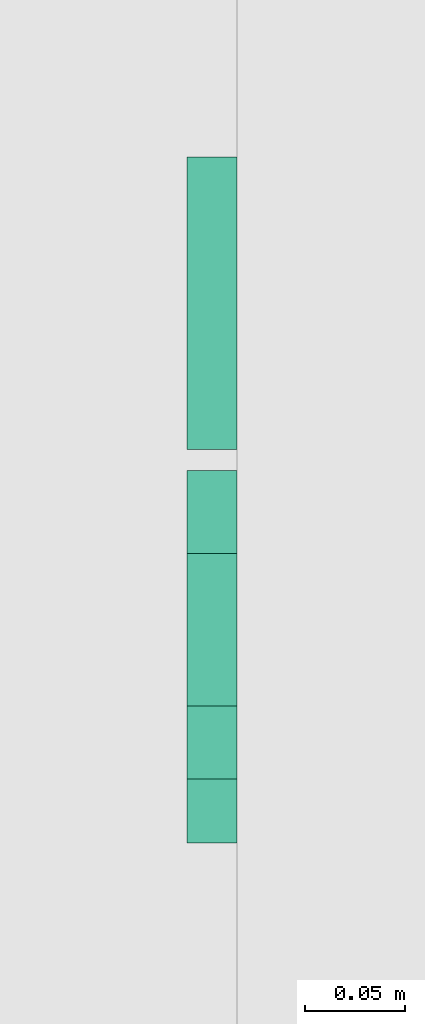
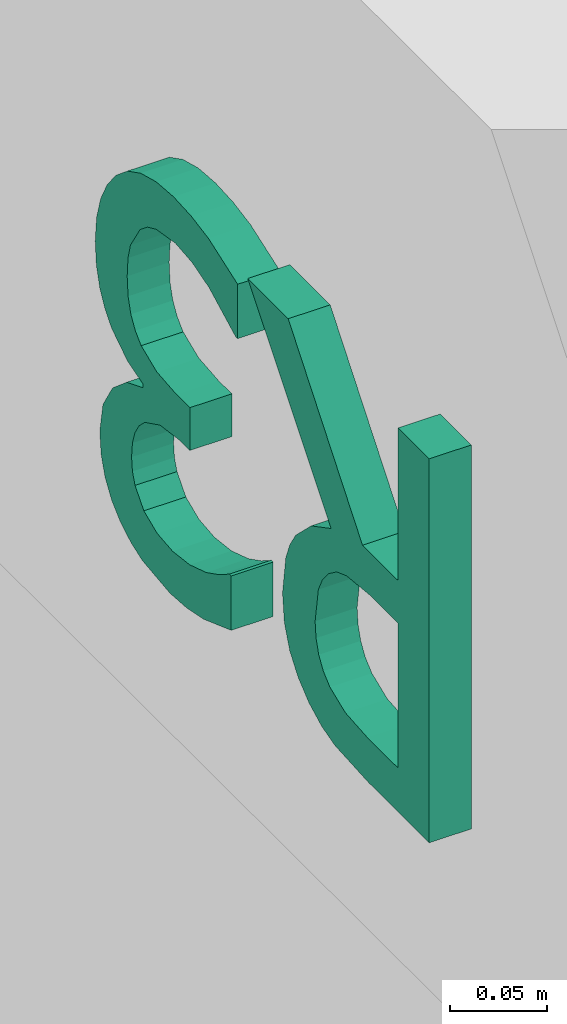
# Not in any storey, part 6 of 22: 1 distribution flow element.
"""IFC4 model written with IfcOpenShell, lengths in metres."""

from ifc_helpers import new_model, si_unit, direction, origin_with_axes, place, context, subcontext, project, faceted_brep, element, save


model = new_model("IFC4")

# Units and contexts
model_context = context("Model", 3, precision=1e-05, world=origin_with_axes(), true_north=direction((1.0, 0.0)))
body_context = subcontext(model_context, "Body", "Model", "MODEL_VIEW")
ifc_project = project(units=[si_unit("LENGTHUNIT", "METRE"), si_unit("AREAUNIT", "SQUARE_METRE"), si_unit("VOLUMEUNIT", "CUBIC_METRE"), si_unit("MASSUNIT", "GRAM", prefix="KILO"), si_unit("TIMEUNIT", "SECOND"), si_unit("PLANEANGLEUNIT", "RADIAN"), si_unit("SOLIDANGLEUNIT", "STERADIAN")], contexts=[model_context])

# Distribution flow element
distribution_flow_element_placement = place(None, origin_with_axes())
element("IfcDistributionFlowElement", 1, at=distribution_flow_element_placement, Name="R3", context=body_context, shape_type="AdvancedBrep", body=[
    faceted_brep([(156.869465, 27.982351, 1.982204), (156.869465, 27.940666, 1.982204), (156.869465, 27.86411, 1.886183), (156.869465, 27.827453, 1.886183), (156.869465, 27.827453, 1.982204), (156.869465, 27.795338, 1.982204), (156.869465, 27.795338, 1.740693), (156.869465, 27.857622, 1.740693), (156.869465, 27.892413, 1.742964), (156.869465, 27.906098, 1.746735), (156.869465, 27.919094, 1.753507), (156.869465, 27.930428, 1.762792), (156.869465, 27.939126, 1.77443), (156.869465, 27.944661, 1.788784), (156.869465, 27.946506, 1.80622), (156.869465, 27.94314, 1.830631), (156.869465, 27.938933, 1.841194), (156.869465, 27.933043, 1.850662), (156.869465, 27.917148, 1.866193), (156.869465, 27.896387, 1.8771), (156.869465, 27.912931, 1.808653), (156.869465, 27.911998, 1.798699), (156.869465, 27.9092, 1.78992), (156.869465, 27.904456, 1.782479), (156.869465, 27.897684, 1.776538), (156.869465, 27.881789, 1.770132), (156.869465, 27.859244, 1.768266), (156.869465, 27.827453, 1.768266), (156.869465, 27.827453, 1.859421), (156.869465, 27.855675, 1.859421), (156.869465, 27.880491, 1.856988), (156.869465, 27.89071, 1.853257), (156.869465, 27.899306, 1.846932), (156.869465, 27.905368, 1.839471), (156.869465, 27.909606, 1.830712), (156.869465, 28.059881, 1.763725), (156.869465, 28.042364, 1.765833), (156.869465, 28.025171, 1.771348), (156.869465, 28.011627, 1.77816), (156.869465, 28.001328, 1.78481), (156.869465, 27.999382, 1.78481), (156.869465, 27.999382, 1.750587), (156.869465, 28.028009, 1.740287), (156.869465, 28.045669, 1.736821), (156.869465, 28.062476, 1.735665), (156.869465, 28.091104, 1.73899), (156.869465, 28.102762, 1.743227), (156.869465, 28.113244, 1.749289), (156.869465, 28.122631, 1.757886), (156.869465, 28.129382, 1.768104), (156.869465, 28.133457, 1.780066), (156.869465, 28.134816, 1.793893), (156.869465, 28.131531, 1.812627), (156.869465, 28.121678, 1.828928), (156.869465, 28.107242, 1.841255), (156.869465, 28.090212, 1.848067), (156.869465, 28.090212, 1.850338), (156.869465, 28.106513, 1.855366), (156.869465, 28.122651, 1.865909), (156.869465, 28.129423, 1.873877), (156.869465, 28.134816, 1.883832), (156.869465, 28.138344, 1.895976), (156.869465, 28.13952, 1.910513), (156.869465, 28.138121, 1.926226), (156.869465, 28.133924, 1.9406), (156.869465, 28.127172, 1.953515), (156.869465, 28.11811, 1.964849), (156.869465, 28.106472, 1.97454), (156.869465, 28.092645, 1.981555), (156.869465, 28.076709, 1.985813), (156.869465, 28.058746, 1.987232), (156.869465, 28.040661, 1.986137), (156.869465, 28.022738, 1.982853), (156.869465, 27.992732, 1.97231), (156.869465, 27.992732, 1.938086), (156.869465, 27.995002, 1.938086), (156.869465, 28.022414, 1.95236), (156.869465, 28.039606, 1.957469), (156.869465, 28.056799, 1.959172), (156.869465, 28.076668, 1.956009), (156.869465, 28.085812, 1.951853), (156.869465, 28.093294, 1.94571), (156.869465, 28.103188, 1.929976), (156.869465, 28.105742, 1.920245), (156.869465, 28.106594, 1.908242), (156.869465, 28.105641, 1.89628), (156.869465, 28.102782, 1.88667), (156.869465, 28.09822, 1.879128), (156.869465, 28.092158, 1.87337), (156.869465, 28.07602, 1.866639), (156.869465, 28.055826, 1.864773), (156.869465, 28.042039, 1.864773), (156.869465, 28.042039, 1.837849), (156.869465, 28.052744, 1.837849), (156.869465, 28.072593, 1.835254), (156.869465, 28.088347, 1.827468), (156.869465, 28.094343, 1.82169), (156.869465, 28.098626, 1.814736), (156.869465, 28.101196, 1.806606), (156.869465, 28.102052, 1.7973), (156.869465, 28.10116, 1.788845), (156.869465, 28.098484, 1.781648), (156.869465, 28.089401, 1.771186), (156.869465, 28.075776, 1.765347), (156.844465, 27.940666, 1.982204), (156.844465, 27.982351, 1.982204), (156.844465, 27.896387, 1.8771), (156.844465, 27.917148, 1.866193), (156.844465, 27.933043, 1.850662), (156.844465, 27.938933, 1.841194), (156.844465, 27.94314, 1.830631), (156.844465, 27.946506, 1.80622), (156.844465, 27.944661, 1.788784), (156.844465, 27.939126, 1.77443), (156.844465, 27.930428, 1.762792), (156.844465, 27.919094, 1.753507), (156.844465, 27.906098, 1.746735), (156.844465, 27.892413, 1.742964), (156.844465, 27.857622, 1.740693), (156.844465, 27.795338, 1.740693), (156.844465, 27.795338, 1.982204), (156.844465, 27.827453, 1.982204), (156.844465, 27.827453, 1.886183), (156.844465, 27.86411, 1.886183), (156.844465, 27.911998, 1.798699), (156.844465, 27.912931, 1.808653), (156.844465, 27.909606, 1.830712), (156.844465, 27.905368, 1.839471), (156.844465, 27.899306, 1.846932), (156.844465, 27.89071, 1.853257), (156.844465, 27.880491, 1.856988), (156.844465, 27.855675, 1.859421), (156.844465, 27.827453, 1.859421), (156.844465, 27.827453, 1.768266), (156.844465, 27.859244, 1.768266), (156.844465, 27.881789, 1.770132), (156.844465, 27.897684, 1.776538), (156.844465, 27.904456, 1.782479), (156.844465, 27.9092, 1.78992), (156.844465, 28.042364, 1.765833), (156.844465, 28.059881, 1.763725), (156.844465, 28.075776, 1.765347), (156.844465, 28.089401, 1.771186), (156.844465, 28.098484, 1.781648), (156.844465, 28.10116, 1.788845), (156.844465, 28.102052, 1.7973), (156.844465, 28.101196, 1.806606), (156.844465, 28.098626, 1.814736), (156.844465, 28.094343, 1.82169), (156.844465, 28.088347, 1.827468), (156.844465, 28.072593, 1.835254), (156.844465, 28.052744, 1.837849), (156.844465, 28.042039, 1.837849), (156.844465, 28.042039, 1.864773), (156.844465, 28.055826, 1.864773), (156.844465, 28.07602, 1.866639), (156.844465, 28.092158, 1.87337), (156.844465, 28.09822, 1.879128), (156.844465, 28.102782, 1.88667), (156.844465, 28.105641, 1.89628), (156.844465, 28.106594, 1.908242), (156.844465, 28.105742, 1.920245), (156.844465, 28.103188, 1.929976), (156.844465, 28.093294, 1.94571), (156.844465, 28.085812, 1.951853), (156.844465, 28.076668, 1.956009), (156.844465, 28.056799, 1.959172), (156.844465, 28.039606, 1.957469), (156.844465, 28.022414, 1.95236), (156.844465, 27.995002, 1.938086), (156.844465, 27.992732, 1.938086), (156.844465, 27.992732, 1.97231), (156.844465, 28.022738, 1.982853), (156.844465, 28.040661, 1.986137), (156.844465, 28.058746, 1.987232), (156.844465, 28.076709, 1.985813), (156.844465, 28.092645, 1.981555), (156.844465, 28.106472, 1.97454), (156.844465, 28.11811, 1.964849), (156.844465, 28.127172, 1.953515), (156.844465, 28.133924, 1.9406), (156.844465, 28.138121, 1.926226), (156.844465, 28.13952, 1.910513), (156.844465, 28.138344, 1.895976), (156.844465, 28.134816, 1.883832), (156.844465, 28.129423, 1.873877), (156.844465, 28.122651, 1.865909), (156.844465, 28.106513, 1.855366), (156.844465, 28.090212, 1.850338), (156.844465, 28.090212, 1.848067), (156.844465, 28.107242, 1.841255), (156.844465, 28.121678, 1.828928), (156.844465, 28.131531, 1.812627), (156.844465, 28.134816, 1.793893), (156.844465, 28.133457, 1.780066), (156.844465, 28.129382, 1.768104), (156.844465, 28.122631, 1.757886), (156.844465, 28.113244, 1.749289), (156.844465, 28.102762, 1.743227), (156.844465, 28.091104, 1.73899), (156.844465, 28.062476, 1.735665), (156.844465, 28.045669, 1.736821), (156.844465, 28.028009, 1.740287), (156.844465, 27.999382, 1.750587), (156.844465, 27.999382, 1.78481), (156.844465, 28.001328, 1.78481), (156.844465, 28.011627, 1.77816), (156.844465, 28.025171, 1.771348)], [[[0, 1, 2, 3, 4, 5, 6, 7, 8, 9, 10, 11, 12, 13, 14, 15, 16, 17, 18, 19], [20, 21, 22, 23, 24, 25, 26, 27, 28, 29, 30, 31, 32, 33, 34]], [[35, 36, 37, 38, 39, 40, 41, 42, 43, 44, 45, 46, 47, 48, 49, 50, 51, 52, 53, 54, 55, 56, 57, 58, 59, 60, 61, 62, 63, 64, 65, 66, 67, 68, 69, 70, 71, 72, 73, 74, 75, 76, 77, 78, 79, 80, 81, 82, 83, 84, 85, 86, 87, 88, 89, 90, 91, 92, 93, 94, 95, 96, 97, 98, 99, 100, 101, 102, 103]], [[104, 105, 106, 107, 108, 109, 110, 111, 112, 113, 114, 115, 116, 117, 118, 119, 120, 121, 122, 123], [124, 125, 126, 127, 128, 129, 130, 131, 132, 133, 134, 135, 136, 137, 138]], [[1, 0, 105, 104]], [[2, 1, 104, 123]], [[3, 2, 123, 122]], [[4, 3, 122, 121]], [[5, 4, 121, 120]], [[6, 5, 120, 119]], [[7, 6, 119, 118]], [[8, 7, 118, 117]], [[9, 8, 117, 116]], [[10, 9, 116, 115]], [[11, 10, 115, 114]], [[12, 11, 114, 113]], [[13, 12, 113, 112]], [[14, 13, 112, 111]], [[15, 14, 111, 110]], [[16, 15, 110, 109]], [[17, 16, 109, 108]], [[18, 17, 108, 107]], [[19, 18, 107, 106]], [[0, 19, 106, 105]], [[21, 20, 125, 124]], [[22, 21, 124, 138]], [[23, 22, 138, 137]], [[24, 23, 137, 136]], [[25, 24, 136, 135]], [[26, 25, 135, 134]], [[27, 26, 134, 133]], [[28, 27, 133, 132]], [[29, 28, 132, 131]], [[30, 29, 131, 130]], [[31, 30, 130, 129]], [[32, 31, 129, 128]], [[33, 32, 128, 127]], [[34, 33, 127, 126]], [[20, 34, 126, 125]], [[139, 140, 141, 142, 143, 144, 145, 146, 147, 148, 149, 150, 151, 152, 153, 154, 155, 156, 157, 158, 159, 160, 161, 162, 163, 164, 165, 166, 167, 168, 169, 170, 171, 172, 173, 174, 175, 176, 177, 178, 179, 180, 181, 182, 183, 184, 185, 186, 187, 188, 189, 190, 191, 192, 193, 194, 195, 196, 197, 198, 199, 200, 201, 202, 203, 204, 205, 206, 207]], [[36, 35, 140, 139]], [[37, 36, 139, 207]], [[38, 37, 207, 206]], [[39, 38, 206, 205]], [[40, 39, 205, 204]], [[41, 40, 204, 203]], [[42, 41, 203, 202]], [[43, 42, 202, 201]], [[44, 43, 201, 200]], [[45, 44, 200, 199]], [[46, 45, 199, 198]], [[47, 46, 198, 197]], [[48, 47, 197, 196]], [[49, 48, 196, 195]], [[50, 49, 195, 194]], [[51, 50, 194, 193]], [[52, 51, 193, 192]], [[53, 52, 192, 191]], [[54, 53, 191, 190]], [[55, 54, 190, 189]], [[56, 55, 189, 188]], [[57, 56, 188, 187]], [[58, 57, 187, 186]], [[59, 58, 186, 185]], [[60, 59, 185, 184]], [[61, 60, 184, 183]], [[62, 61, 183, 182]], [[63, 62, 182, 181]], [[64, 63, 181, 180]], [[65, 64, 180, 179]], [[66, 65, 179, 178]], [[67, 66, 178, 177]], [[68, 67, 177, 176]], [[69, 68, 176, 175]], [[70, 69, 175, 174]], [[71, 70, 174, 173]], [[72, 71, 173, 172]], [[73, 72, 172, 171]], [[74, 73, 171, 170]], [[75, 74, 170, 169]], [[76, 75, 169, 168]], [[77, 76, 168, 167]], [[78, 77, 167, 166]], [[79, 78, 166, 165]], [[80, 79, 165, 164]], [[81, 80, 164, 163]], [[82, 81, 163, 162]], [[83, 82, 162, 161]], [[84, 83, 161, 160]], [[85, 84, 160, 159]], [[86, 85, 159, 158]], [[87, 86, 158, 157]], [[88, 87, 157, 156]], [[89, 88, 156, 155]], [[90, 89, 155, 154]], [[91, 90, 154, 153]], [[92, 91, 153, 152]], [[93, 92, 152, 151]], [[94, 93, 151, 150]], [[95, 94, 150, 149]], [[96, 95, 149, 148]], [[97, 96, 148, 147]], [[98, 97, 147, 146]], [[99, 98, 146, 145]], [[100, 99, 145, 144]], [[101, 100, 144, 143]], [[102, 101, 143, 142]], [[103, 102, 142, 141]], [[35, 103, 141, 140]]]),
])

save(model, "model.ifc")
